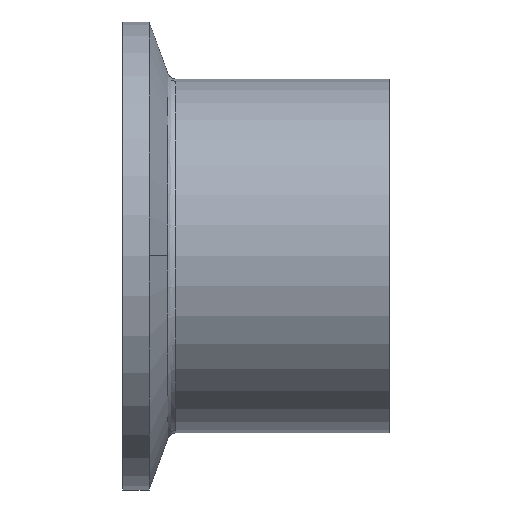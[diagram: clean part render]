
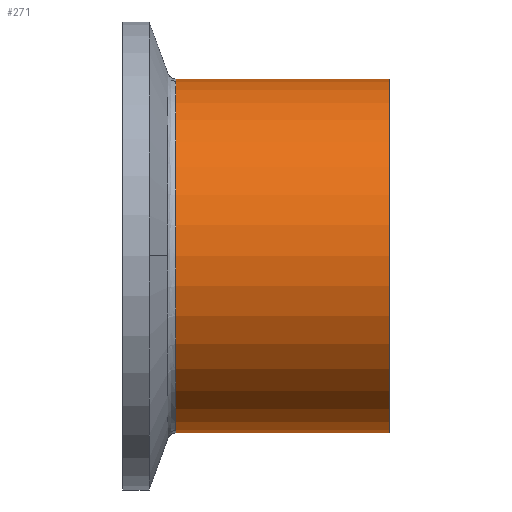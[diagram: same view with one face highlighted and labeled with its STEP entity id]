
A CAD part, top view. The second image highlights one B-rep face of the part: STEP entity #271.
In plain terms, the highlighted cylindrical face has radius 19.05 mm (diameter 38.1 mm), a partial arc.
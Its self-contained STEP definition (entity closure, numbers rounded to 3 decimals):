
#50 = DIRECTION ( 'NONE',  ( 1., 0., 0. ) ) ;
#62 = DIRECTION ( 'NONE',  ( 0., 1., 0. ) ) ;
#64 = VERTEX_POINT ( 'NONE', #1331 ) ;
#88 = DIRECTION ( 'NONE',  ( 1., 0., 0. ) ) ;
#107 = AXIS2_PLACEMENT_3D ( 'NONE', #1404, #759, #62 ) ;
#177 = VECTOR ( 'NONE', #836, 1000. ) ;
#217 = CARTESIAN_POINT ( 'NONE',  ( 0., 19.05, 0. ) ) ;
#256 = ORIENTED_EDGE ( 'NONE', *, *, #1109, .F. ) ;
#259 = CARTESIAN_POINT ( 'NONE',  ( 45.786, -19.05, 0. ) ) ;
#271 = ADVANCED_FACE ( 'NONE', ( #627 ), #920, .T. ) ;
#276 = CARTESIAN_POINT ( 'NONE',  ( 45.786, 0., 0. ) ) ;
#347 = CARTESIAN_POINT ( 'NONE',  ( -22.978, -19.05, 0. ) ) ;
#366 = CIRCLE ( 'NONE', #712, 19.05 ) ;
#400 = DIRECTION ( 'NONE',  ( 0., 1., 0. ) ) ;
#405 = EDGE_CURVE ( 'NONE', #923, #731, #1110, .T. ) ;
#552 = ORIENTED_EDGE ( 'NONE', *, *, #1264, .F. ) ;
#564 = LINE ( 'NONE', #1426, #937 ) ;
#597 = CARTESIAN_POINT ( 'NONE',  ( 0., -19.05, 0. ) ) ;
#600 = CARTESIAN_POINT ( 'NONE',  ( 0., 0., 0. ) ) ;
#610 = AXIS2_PLACEMENT_3D ( 'NONE', #276, #50, #400 ) ;
#618 = ORIENTED_EDGE ( 'NONE', *, *, #405, .T. ) ;
#627 = FACE_OUTER_BOUND ( 'NONE', #670, .T. ) ;
#670 = EDGE_LOOP ( 'NONE', ( #907, #618, #552, #256 ) ) ;
#712 = AXIS2_PLACEMENT_3D ( 'NONE', #600, #1365, #721 ) ;
#721 = DIRECTION ( 'NONE',  ( 0., 1., 0. ) ) ;
#731 = VERTEX_POINT ( 'NONE', #597 ) ;
#759 = DIRECTION ( 'NONE',  ( 1., 0., 0. ) ) ;
#836 = DIRECTION ( 'NONE',  ( 1., 0., 0. ) ) ;
#907 = ORIENTED_EDGE ( 'NONE', *, *, #1056, .T. ) ;
#920 = CYLINDRICAL_SURFACE ( 'NONE', #610, 19.05 ) ;
#923 = VERTEX_POINT ( 'NONE', #347 ) ;
#937 = VECTOR ( 'NONE', #88, 1000. ) ;
#1056 = EDGE_CURVE ( 'NONE', #64, #923, #1152, .T. ) ;
#1109 = EDGE_CURVE ( 'NONE', #64, #1199, #564, .T. ) ;
#1110 = LINE ( 'NONE', #259, #177 ) ;
#1152 = CIRCLE ( 'NONE', #107, 19.05 ) ;
#1199 = VERTEX_POINT ( 'NONE', #217 ) ;
#1264 = EDGE_CURVE ( 'NONE', #1199, #731, #366, .T. ) ;
#1331 = CARTESIAN_POINT ( 'NONE',  ( -22.978, 19.05, 0. ) ) ;
#1365 = DIRECTION ( 'NONE',  ( 1., 0., 0. ) ) ;
#1404 = CARTESIAN_POINT ( 'NONE',  ( -22.978, 0., 0. ) ) ;
#1426 = CARTESIAN_POINT ( 'NONE',  ( 45.786, 19.05, 0. ) ) ;
